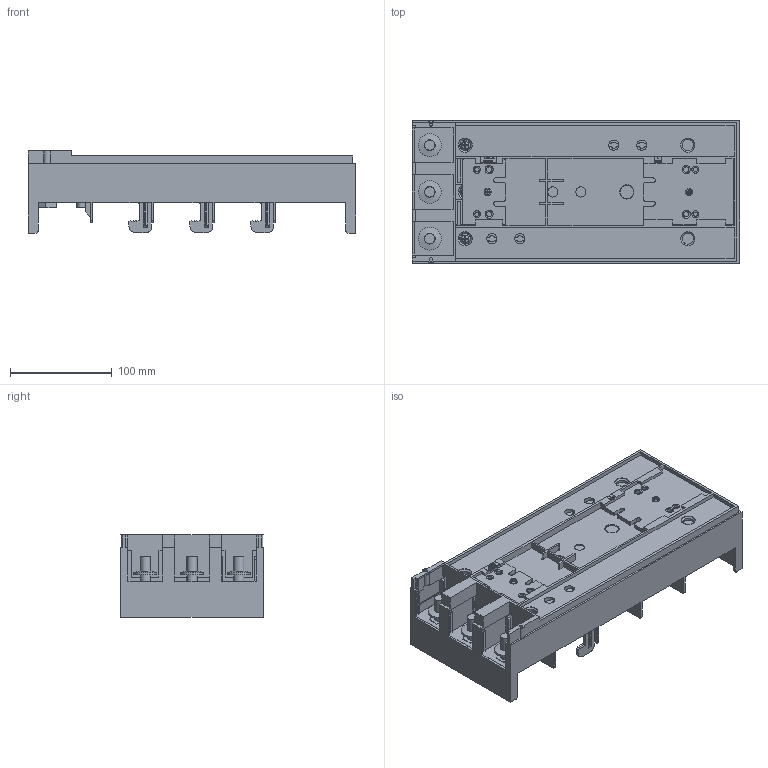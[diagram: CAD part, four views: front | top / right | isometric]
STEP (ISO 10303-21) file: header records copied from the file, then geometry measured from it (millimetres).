
FILE_DESCRIPTION (( 'STEP AP203' ), '1' );
FILE_NAME ('55019.STEP', '2021-08-30T08:00:17', ( '' ), ( '' ), 'SwSTEP 2.0', 'SolidWorks 2017', '' );
FILE_SCHEMA (( 'CONFIG_CONTROL_DESIGN' ));
Products named in the file (2): 55019
Bounding box: 322 x 140 x 81 mm (x, y, z)
Surface area: 309591.1 mm2 (no closed solid volume)
Topology: 0 solids, 33 shells, 1597 faces, 4432 edges, 2936 vertices
Faces by surface type: plane 1151, cylinder 241, bspline 159, cone 46
Full cylindrical faces by diameter (mm): 3.5 x4, 4 x2, 4.2 x7, 4.8 x3, 5.2 x4, 5.5 x3, 7 x2, 8 x3, 8.5 x3, 9.5 x3, 10 x9, 10.5 x3, 11 x5, 14 x6, 22.5 x3
Entity records: 53122 total; most frequent: CARTESIAN_POINT 13962, ORIENTED_EDGE 8488, DIRECTION 7103, EDGE_CURVE 4250, LINE 3297, VECTOR 3297, VERTEX_POINT 2869, AXIS2_PLACEMENT_3D 1903
